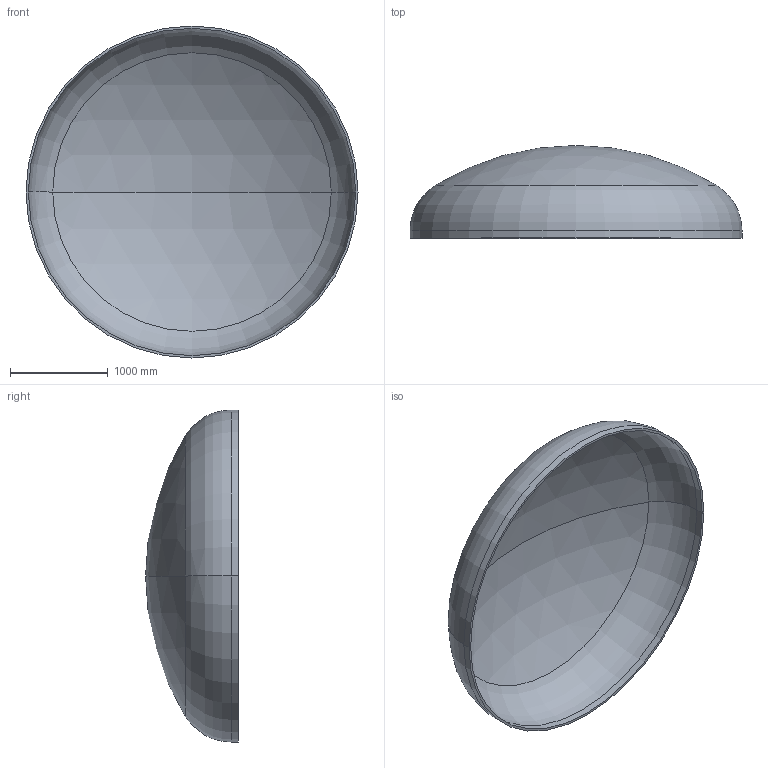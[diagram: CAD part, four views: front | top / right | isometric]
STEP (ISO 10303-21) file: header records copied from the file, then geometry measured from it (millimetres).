
FILE_DESCRIPTION (( 'STEP AP203' ), '1' );
FILE_NAME ('DIN 28013 Korbbogenform_-_Boden DIN 28013 - 3400 x 75 - I - s=24.step', '2016-07-01T19:18:47', ( '' ), ( '' ), 'SwSTEP 2.0', 'SolidWorks 2013', '' );
FILE_SCHEMA (( 'CONFIG_CONTROL_DESIGN' ));
Length unit declared in the file: millimetre
Products named in the file (1): DIN 28013 Korbbogenform_-_Boden DIN 28013 - 3400 x 75 - I - s=24
Bounding box: 3400 x 949.98 x 3400 mm (x, y, z)
Volume: 318236664.2 mm3; surface area: 26775462.6 mm2
Topology: 1 solids, 1 shells, 13 faces, 24 edges, 14 vertices
Faces by surface type: torus 4, cylinder 4, sphere 4, plane 1
Entity records: 407 total; most frequent: DIRECTION 72, CARTESIAN_POINT 52, ORIENTED_EDGE 48, AXIS2_PLACEMENT_3D 34, EDGE_CURVE 24, CIRCLE 20, VERTEX_POINT 14, EDGE_LOOP 14
